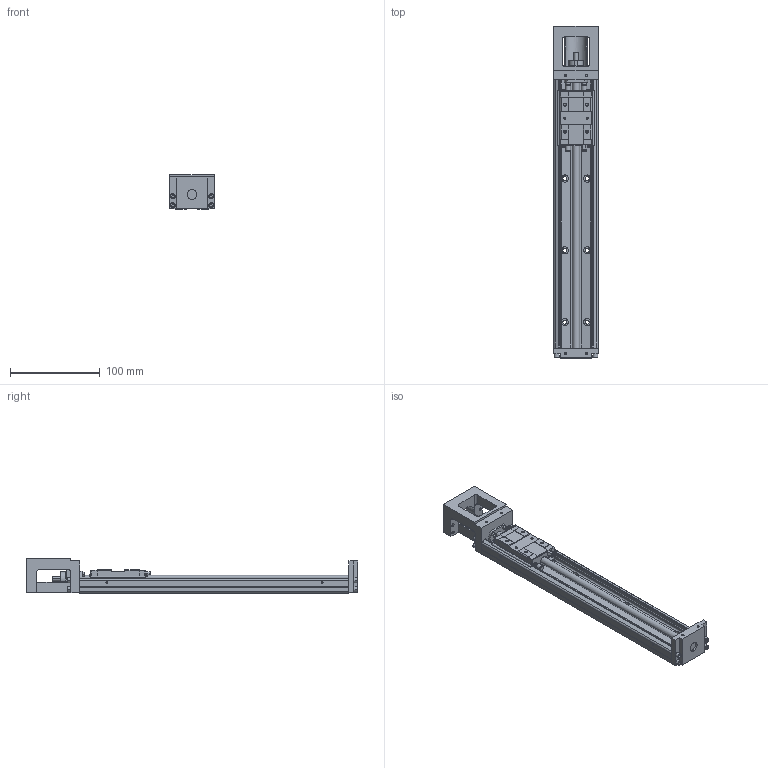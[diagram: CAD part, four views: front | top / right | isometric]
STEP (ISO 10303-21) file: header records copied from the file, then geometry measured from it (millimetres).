
FILE_DESCRIPTION(('no description'),'unknown implementation level');
FILE_NAME('KK5002P300A1F0000_FILE_14.stp',' ',('HIWIN GmbH'),('CADClick - KiM GmbH - www.kimweb.de'),'unknown preprocess','ACIS','unknown authorization');
FILE_SCHEMA(('automotive_design'));
Length unit declared in the file: millimetre
Products named in the file (2): KK50_FILE; KK5002P300A1F0000_FILE
Bounding box: 50 x 370 x 38.5 mm (x, y, z)
Volume: 267743 mm3; surface area: 88617 mm2
Topology: 2 solids, 10 shells, 674 faces, 1732 edges, 1095 vertices
Faces by surface type: plane 385, cylinder 197, cone 50, torus 42
Entity records: 40248 total; most frequent: CARTESIAN_POINT 4139, DIRECTION 3568, STYLED_ITEM 3469, PRESENTATION_STYLE_ASSIGNMENT 3469, COLOUR_RGB 3469, ORIENTED_EDGE 3396, EDGE_CURVE 1698, CURVE_STYLE 1698
